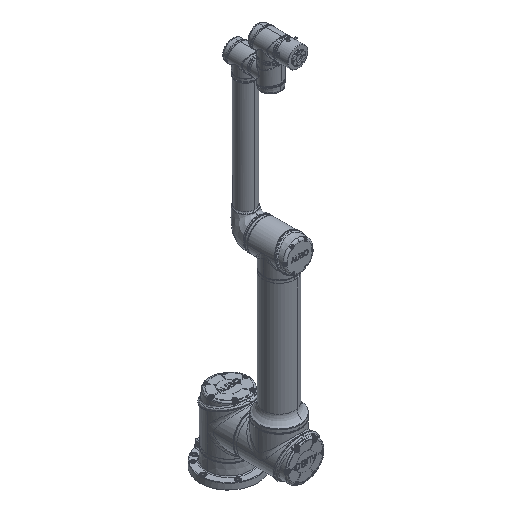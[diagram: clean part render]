
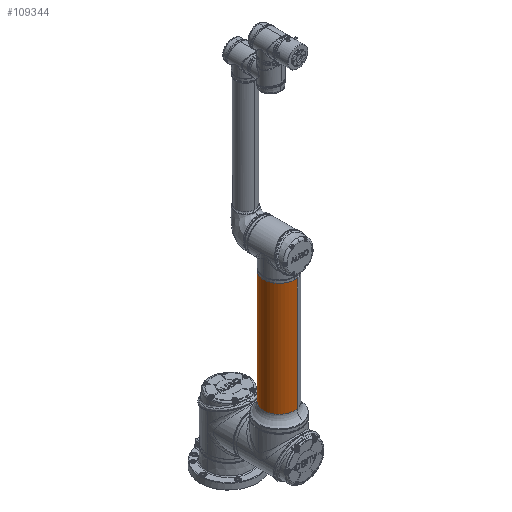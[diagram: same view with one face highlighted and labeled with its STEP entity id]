
A CAD part, isometric view. The second image highlights one B-rep face of the part: STEP entity #109344.
In plain terms, the highlighted cylindrical face has radius 76 mm (diameter 152 mm), a partial arc.
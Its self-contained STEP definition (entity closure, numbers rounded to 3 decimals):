
#13464 = DIRECTION ( 'NONE',  ( 0., 0., -1. ) ) ;
#40369 = VERTEX_POINT ( 'NONE', #276640 ) ;
#53524 = VERTEX_POINT ( 'NONE', #395753 ) ;
#56523 = VERTEX_POINT ( 'NONE', #182598 ) ;
#89375 = VECTOR ( 'NONE', #513121, 1000. ) ;
#93834 = AXIS2_PLACEMENT_3D ( 'NONE', #377822, #545371, #319626 ) ;
#97294 = EDGE_CURVE ( 'NONE', #448624, #53524, #663856, .T. ) ;
#105560 = CARTESIAN_POINT ( 'NONE',  ( -108., 0., -746.2 ) ) ;
#108877 = ORIENTED_EDGE ( 'NONE', *, *, #97294, .F. ) ;
#109344 = ADVANCED_FACE ( 'NONE', ( #691946 ), #196401, .T. ) ;
#130856 = VECTOR ( 'NONE', #13464, 1000. ) ;
#182598 = CARTESIAN_POINT ( 'NONE',  ( -33.329, -14.152, -746.2 ) ) ;
#196401 = CYLINDRICAL_SURFACE ( 'NONE', #319023, 76. ) ;
#199319 = ORIENTED_EDGE ( 'NONE', *, *, #536376, .F. ) ;
#244215 = CIRCLE ( 'NONE', #593158, 76. ) ;
#276640 = CARTESIAN_POINT ( 'NONE',  ( -182.671, 14.152, -746.2 ) ) ;
#294457 = LINE ( 'NONE', #393028, #89375 ) ;
#319023 = AXIS2_PLACEMENT_3D ( 'NONE', #418634, #520805, #407891 ) ;
#319626 = DIRECTION ( 'NONE',  ( -0.983, 0.186, 0. ) ) ;
#320696 = EDGE_LOOP ( 'NONE', ( #199319, #108877, #694292, #355320 ) ) ;
#355320 = ORIENTED_EDGE ( 'NONE', *, *, #558288, .T. ) ;
#377822 = CARTESIAN_POINT ( 'NONE',  ( -108., 0., -190. ) ) ;
#389476 = CARTESIAN_POINT ( 'NONE',  ( -182.671, 14.152, -190. ) ) ;
#393028 = CARTESIAN_POINT ( 'NONE',  ( -182.671, 14.152, -113. ) ) ;
#395753 = CARTESIAN_POINT ( 'NONE',  ( -33.329, -14.152, -190. ) ) ;
#407891 = DIRECTION ( 'NONE',  ( -0.983, 0.186, 0. ) ) ;
#418634 = CARTESIAN_POINT ( 'NONE',  ( -108., 0., -113. ) ) ;
#448624 = VERTEX_POINT ( 'NONE', #389476 ) ;
#512567 = CARTESIAN_POINT ( 'NONE',  ( -33.329, -14.152, -113. ) ) ;
#513121 = DIRECTION ( 'NONE',  ( 0., 0., -1. ) ) ;
#520805 = DIRECTION ( 'NONE',  ( 0., 0., -1. ) ) ;
#536376 = EDGE_CURVE ( 'NONE', #53524, #56523, #567172, .T. ) ;
#545371 = DIRECTION ( 'NONE',  ( 0., 0., 1. ) ) ;
#546420 = DIRECTION ( 'NONE',  ( -0.983, 0.186, 0. ) ) ;
#558288 = EDGE_CURVE ( 'NONE', #40369, #56523, #244215, .T. ) ;
#567172 = LINE ( 'NONE', #512567, #130856 ) ;
#593158 = AXIS2_PLACEMENT_3D ( 'NONE', #105560, #710450, #546420 ) ;
#646225 = EDGE_CURVE ( 'NONE', #448624, #40369, #294457, .T. ) ;
#663856 = CIRCLE ( 'NONE', #93834, 76. ) ;
#691946 = FACE_OUTER_BOUND ( 'NONE', #320696, .T. ) ;
#694292 = ORIENTED_EDGE ( 'NONE', *, *, #646225, .T. ) ;
#710450 = DIRECTION ( 'NONE',  ( 0., 0., 1. ) ) ;
